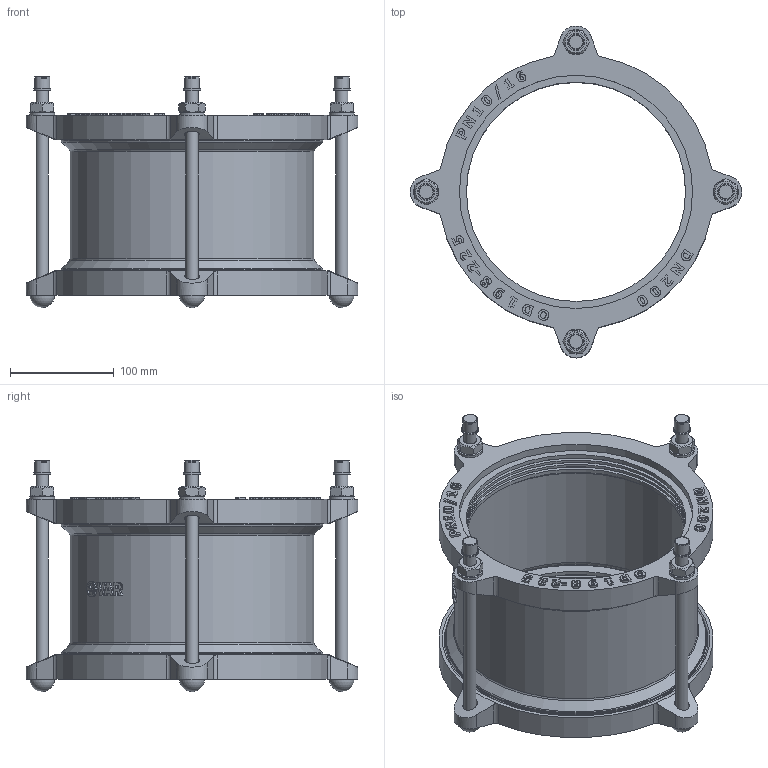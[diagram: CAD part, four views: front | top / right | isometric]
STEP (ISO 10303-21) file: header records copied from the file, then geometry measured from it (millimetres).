
FILE_DESCRIPTION(('STEP AP203'), '1');
FILE_NAME('Cîåäèíèòåëüíàÿ ìóôòà äëÿ æåñòêèõ òðóá', '', ('UNSPECIFIED'), ('UNSPECIFIED'), 'C3D Converter', 'C3D Toolkit', '');
FILE_SCHEMA(('CONFIG_CONTROL_DESIGN'));
Length unit declared in the file: millimetre
Assembly tree (21 placements, depth 2):
  (unnamed)
    (unnamed)
    (unnamed)  x4
    (unnamed)  x4
    (unnamed)  x4
    (unnamed)  x4
    (unnamed)
    (unnamed)
    (unnamed)  x2
Bounding box: 320 x 320 x 223.2 mm (x, y, z)
Volume: 1607592.9 mm3; surface area: 569399.5 mm2
Topology: 25 solids, 25 shells, 807 faces, 2041 edges, 1342 vertices
Faces by surface type: extrusion 360, plane 282, cylinder 105, cone 34, torus 22, sphere 4
Full cylindrical faces by diameter (mm): 12 x12, 13 x4, 14 x8, 14.4 x4, 14.703 x1, 16.8 x4, 24 x4, 211.5 x8, 218.25 x6, 225 x3, 230 x2, 235 x3, 252.5 x2, 255 x4
Entity records: 32502 total; most frequent: CARTESIAN_POINT 11782, ORIENTED_EDGE 3550, DIRECTION 2205, EDGE_CURVE 1775, VERTEX_POINT 1212, VECTOR 1159, B_SPLINE_CURVE_WITH_KNOTS 1144, EDGE_LOOP 845
